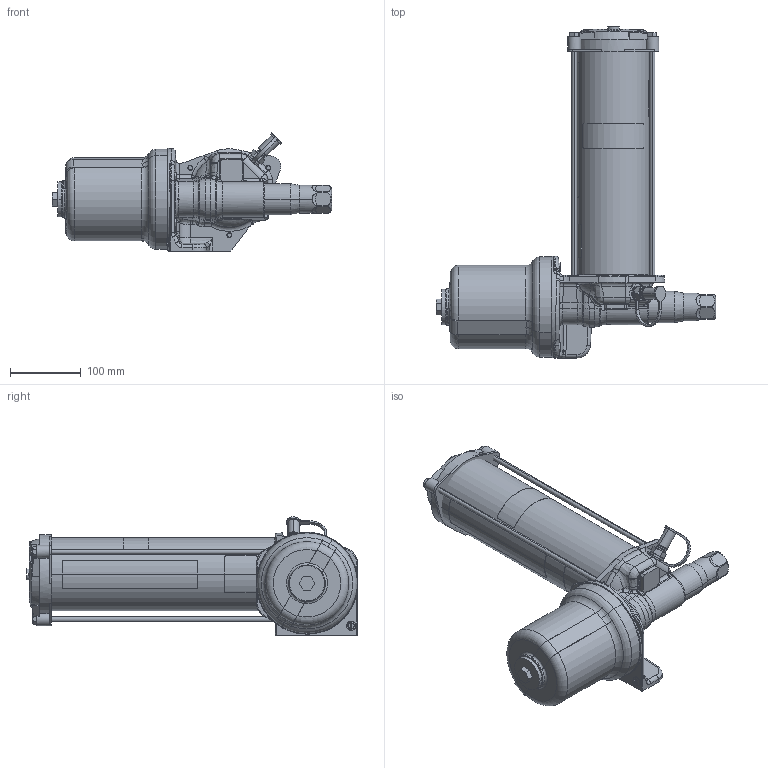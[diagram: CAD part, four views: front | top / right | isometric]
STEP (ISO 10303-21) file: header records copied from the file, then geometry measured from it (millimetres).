
FILE_DESCRIPTION((''),'2;1');
FILE_NAME('17C750-EN-U_PRT','2024-03-22T09:52:35',('qtmwp1'),(''),'CREO PARAMETRIC BY PTC INC, 2023424','CREO PARAMETRIC BY PTC INC, 2023424','');
FILE_SCHEMA(('CONFIG_CONTROL_DESIGN'));
Length unit declared in the file: inch
Products named in the file (1): 17C750-EN-U_PRT
Bounding box: 393.59 x 467.74 x 166.77 mm (x, y, z)
Surface area: 375087 mm2 (no closed solid volume)
Topology: 0 solids, 44 shells, 632 faces, 1801 edges, 1158 vertices
Faces by surface type: plane 256, cylinder 145, bspline 119, cone 80, torus 31, sphere 1
Entity records: 26902 total; most frequent: CARTESIAN_POINT 12101, ORIENTED_EDGE 3192, DIRECTION 2706, EDGE_CURVE 1800, VERTEX_POINT 1158, AXIS2_PLACEMENT_3D 1040, B_SPLINE_CURVE_WITH_KNOTS 647, EDGE_LOOP 632
